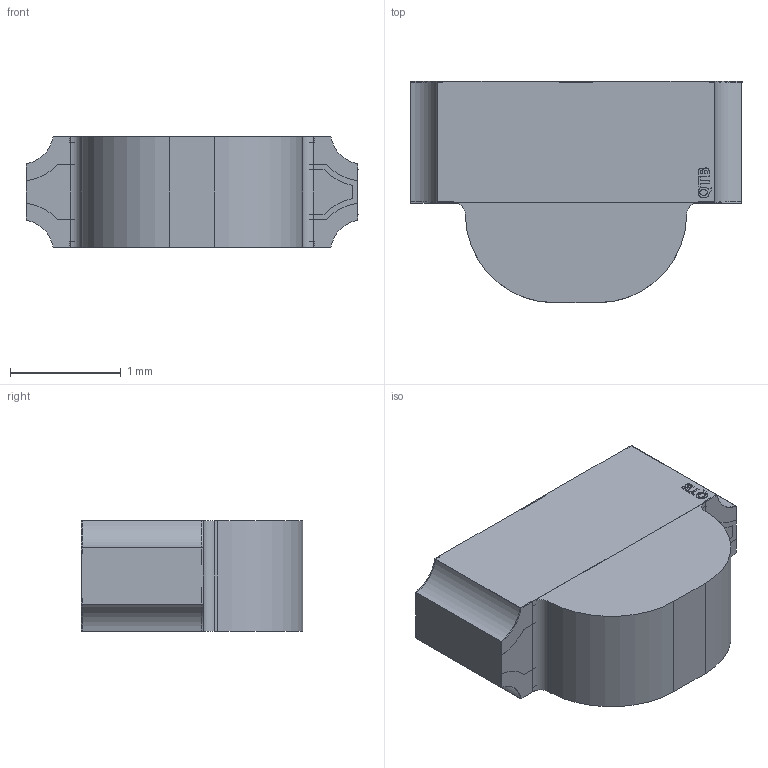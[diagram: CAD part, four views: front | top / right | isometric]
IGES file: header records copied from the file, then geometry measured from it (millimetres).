
Start section: Data from Parasolid IGES Translator 23.1.110, Copyright(c) 2006 Siemens PLM Software. All Rights Reserved.
Global section: file name: 5fb6d46516602314fe199161.iges; native system: By Siemens PLM Incorporated; preprocessor: XPlus GENERIC/IGES 23.1.110; author: Noname; organization: Noname; date: 20201119.202406; units: metre
Bounding box: 3 x 2 x 1 mm (x, y, z)
Surface area: 30.5 mm2 (no closed solid volume)
Topology: 0 solids, 0 shells, 278 faces, 1526 edges, 1526 vertices
Faces by surface type: extrusion 198, revolution 80
